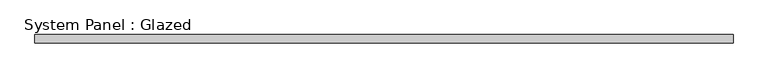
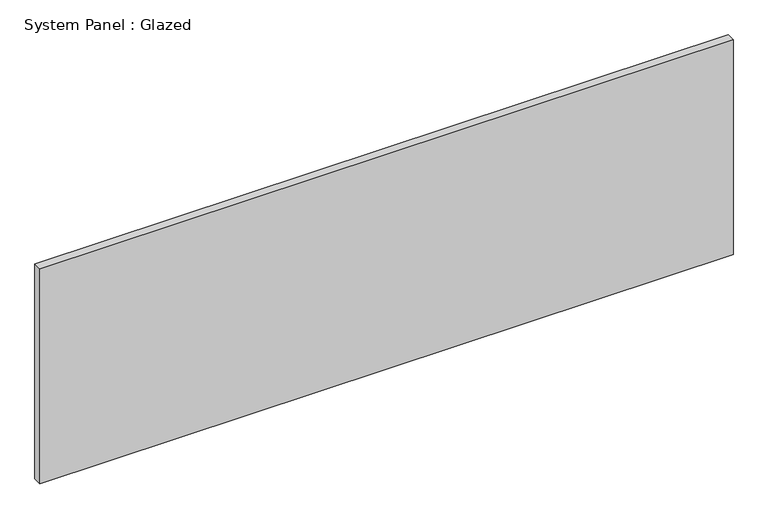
"""IFC4 building model written with IfcOpenShell, lengths in millimetres: plate geometry, System Panel : Glazed."""

from ifc_helpers import new_model, si_unit, origin, origin_with_axes, place, context, project, spatial, polyline, outline, extrude, source, transform, mapped, element, save


def system_panel_glazed_ef97d2b3(model_context):
    return source(origin(), model_context, "Body", "SweptSolid", [
        extrude(outline(polyline([(1035.05, 19.05), (-1035.05, 19.05), (-1035.05, 44.45), (1035.05, 44.45), (1035.05, 19.05)])), origin_with_axes(), (0.0, 0.0, 1.0), 678.75),
    ])


if __name__ == "__main__":
    model = new_model("IFC4")
    model_context = context("Model", 3, world=origin())
    ifc_project = project(units=[si_unit("LENGTHUNIT", "METRE", prefix="MILLI")], contexts=[model_context])
    site = spatial("IfcSite", under=ifc_project)
    building = spatial("IfcBuilding", under=site)
    placement = place(None, origin())
    system_panel_glazed_shape = system_panel_glazed_ef97d2b3(model_context)
    element("IfcPlate", 1, ObjectType="System Panel : Glazed", at=placement, inside=building, context=model_context, shape_type="MappedRepresentation", body=[
        mapped(system_panel_glazed_shape, transform((0.0, 0.0, 0.0), x_axis=(1.0, 0.0, 0.0), y_axis=(0.0, 1.0, 0.0), z_axis=(0.0, 0.0, 1.0))),
    ])
    save(model, "model.ifc")
